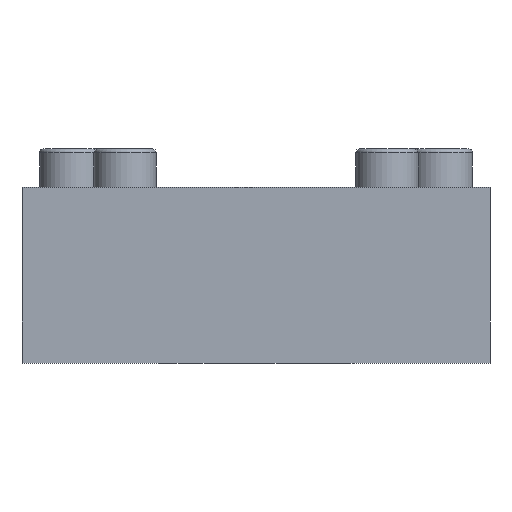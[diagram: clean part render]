
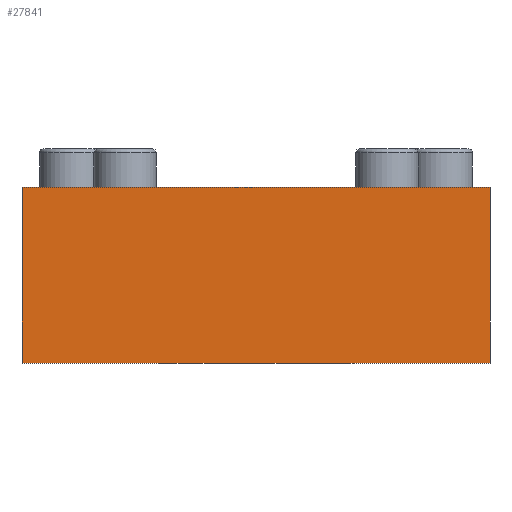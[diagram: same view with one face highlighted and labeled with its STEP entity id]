
A CAD part, front view. The second image highlights one B-rep face of the part: STEP entity #27841.
In plain terms, the highlighted planar face has unit normal (0, -1, 0).
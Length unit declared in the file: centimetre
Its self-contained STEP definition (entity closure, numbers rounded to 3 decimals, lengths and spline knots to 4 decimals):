
#1291=LINE('',#34078,#4139);
#4131=LINE('',#46839,#6979);
#4136=LINE('',#46848,#6984);
#4137=LINE('',#46850,#6985);
#4139=VECTOR('',#29006,12.);
#6979=VECTOR('',#34022,4.506);
#6984=VECTOR('',#34031,4.506);
#6985=VECTOR('',#34034,12.);
#7966=PLANE('',#28957);
#10857=FACE_OUTER_BOUND('',#12450,.T.);
#12450=EDGE_LOOP('',(#26389,#26390,#26391,#26392));
#12536=VERTEX_POINT('',#34075);
#12537=VERTEX_POINT('',#34077);
#15057=VERTEX_POINT('',#46836);
#15060=VERTEX_POINT('',#46846);
#15076=EDGE_CURVE('',#12536,#12537,#1291,.T.);
#18834=EDGE_CURVE('',#15057,#12536,#4131,.T.);
#18839=EDGE_CURVE('',#15060,#12537,#4136,.T.);
#18840=EDGE_CURVE('',#15060,#15057,#4137,.T.);
#26389=ORIENTED_EDGE('',*,*,#18840,.F.);
#26390=ORIENTED_EDGE('',*,*,#18839,.T.);
#26391=ORIENTED_EDGE('',*,*,#15076,.F.);
#26392=ORIENTED_EDGE('',*,*,#18834,.F.);
#27841=ADVANCED_FACE('',(#10857),#7966,.T.);
#28957=AXIS2_PLACEMENT_3D('',#46849,#34032,#34033);
#29006=DIRECTION('',(1.,0.,0.));
#34022=DIRECTION('',(0.,0.,1.));
#34031=DIRECTION('',(0.,0.,1.));
#34032=DIRECTION('center_axis',(0.,-1.,0.));
#34033=DIRECTION('ref_axis',(1.,0.,0.));
#34034=DIRECTION('',(-1.,0.,0.));
#34075=CARTESIAN_POINT('',(-6.,-34.5,4.506));
#34077=CARTESIAN_POINT('',(6.,-34.5,4.506));
#34078=CARTESIAN_POINT('',(-6.,-34.5,4.506));
#46836=CARTESIAN_POINT('',(-6.,-34.5,0.));
#46839=CARTESIAN_POINT('',(-6.,-34.5,0.));
#46846=CARTESIAN_POINT('',(6.,-34.5,0.));
#46848=CARTESIAN_POINT('',(6.,-34.5,0.));
#46849=CARTESIAN_POINT('Origin',(-6.,-34.5,0.));
#46850=CARTESIAN_POINT('',(6.,-34.5,0.));
